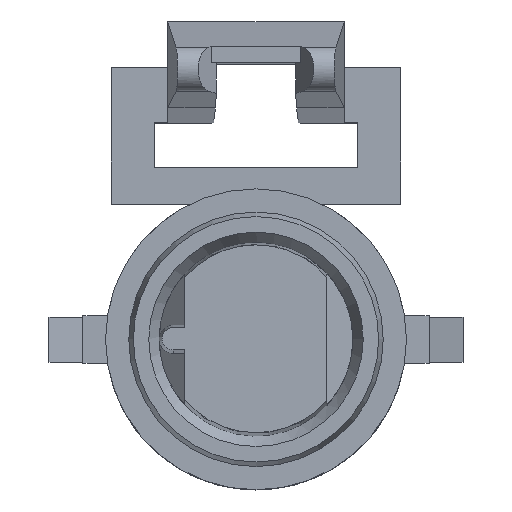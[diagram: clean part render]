
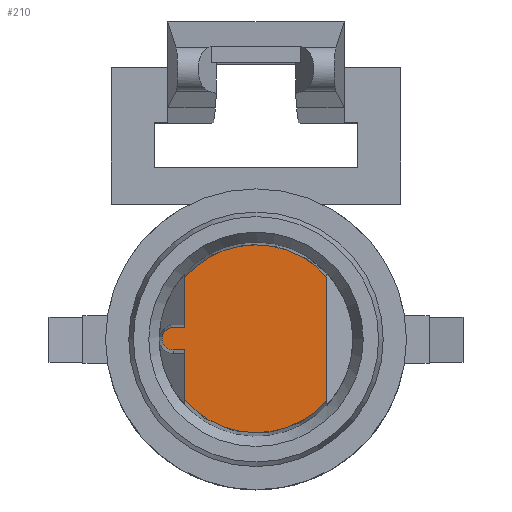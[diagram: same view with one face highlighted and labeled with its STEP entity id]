
A CAD part, top view. The second image highlights one B-rep face of the part: STEP entity #210.
In plain terms, the highlighted planar face has unit normal (0, 0, 1).
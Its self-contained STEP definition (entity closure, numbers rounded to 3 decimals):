
#100=CIRCLE('',#1733,0.496);
#101=CIRCLE('',#1741,4.15);
#102=CIRCLE('',#1742,4.15);
#210=ADVANCED_FACE('',(#356),#282,.T.);
#282=PLANE('',#1743);
#356=FACE_OUTER_BOUND('',#454,.T.);
#454=EDGE_LOOP('',(#876,#877,#878,#879,#880,#881,#882,#883));
#876=ORIENTED_EDGE('',*,*,#1254,.T.);
#877=ORIENTED_EDGE('',*,*,#1258,.T.);
#878=ORIENTED_EDGE('',*,*,#1260,.F.);
#879=ORIENTED_EDGE('',*,*,#1265,.F.);
#880=ORIENTED_EDGE('',*,*,#1271,.F.);
#881=ORIENTED_EDGE('',*,*,#1270,.F.);
#882=ORIENTED_EDGE('',*,*,#1272,.F.);
#883=ORIENTED_EDGE('',*,*,#1273,.T.);
#1040=VERTEX_POINT('',#2609);
#1041=VERTEX_POINT('',#2611);
#1044=VERTEX_POINT('',#2618);
#1045=VERTEX_POINT('',#2623);
#1048=VERTEX_POINT('',#2637);
#1051=VERTEX_POINT('',#2652);
#1052=VERTEX_POINT('',#2660);
#1053=VERTEX_POINT('',#2665);
#1254=EDGE_CURVE('',#1041,#1040,#1437,.T.);
#1258=EDGE_CURVE('',#1040,#1044,#100,.T.);
#1260=EDGE_CURVE('',#1045,#1044,#1440,.T.);
#1265=EDGE_CURVE('',#1048,#1045,#1444,.T.);
#1270=EDGE_CURVE('',#1052,#1051,#1446,.T.);
#1271=EDGE_CURVE('',#1051,#1048,#101,.T.);
#1272=EDGE_CURVE('',#1053,#1052,#102,.T.);
#1273=EDGE_CURVE('',#1053,#1041,#1447,.T.);
#1437=LINE('',#2610,#1608);
#1440=LINE('',#2622,#1611);
#1444=LINE('',#2638,#1615);
#1446=LINE('',#2661,#1617);
#1447=LINE('',#2666,#1618);
#1608=VECTOR('',#2131,1.);
#1611=VECTOR('',#2144,1.);
#1615=VECTOR('',#2150,1.);
#1617=VECTOR('',#2158,1.);
#1618=VECTOR('',#2165,1.);
#1733=AXIS2_PLACEMENT_3D('',#2619,#2138,#2139);
#1741=AXIS2_PLACEMENT_3D('',#2663,#2161,#2162);
#1742=AXIS2_PLACEMENT_3D('',#2664,#2163,#2164);
#1743=AXIS2_PLACEMENT_3D('',#2667,#2166,#2167);
#2131=DIRECTION('',(-1.,0.,0.));
#2138=DIRECTION('',(0.,0.,1.));
#2139=DIRECTION('',(0.,-1.,0.));
#2144=DIRECTION('',(-1.,0.,0.));
#2150=DIRECTION('',(0.,1.,0.));
#2158=DIRECTION('',(0.,-1.,0.));
#2161=DIRECTION('',(0.,0.,-1.));
#2162=DIRECTION('',(0.,-1.,0.));
#2163=DIRECTION('',(0.,0.,-1.));
#2164=DIRECTION('',(0.,-1.,0.));
#2165=DIRECTION('',(0.,-1.,0.));
#2166=DIRECTION('',(0.,0.,1.));
#2167=DIRECTION('',(0.,1.,0.));
#2609=CARTESIAN_POINT('',(-3.654,0.496,14.649));
#2610=CARTESIAN_POINT('',(-3.354,0.496,14.649));
#2611=CARTESIAN_POINT('',(-3.15,0.496,14.649));
#2618=CARTESIAN_POINT('',(-3.654,-0.496,14.649));
#2619=CARTESIAN_POINT('',(-3.654,0.,14.649));
#2622=CARTESIAN_POINT('',(-3.354,-0.496,14.649));
#2623=CARTESIAN_POINT('',(-3.15,-0.496,14.649));
#2637=CARTESIAN_POINT('',(-3.15,-2.702,14.649));
#2638=CARTESIAN_POINT('',(-3.15,3.5,14.649));
#2652=CARTESIAN_POINT('',(3.132,-2.723,14.649));
#2660=CARTESIAN_POINT('',(3.131,2.724,14.649));
#2661=CARTESIAN_POINT('',(3.131,0.,14.649));
#2663=CARTESIAN_POINT('',(0.,0.,14.649));
#2664=CARTESIAN_POINT('',(0.,0.,14.649));
#2665=CARTESIAN_POINT('',(-3.15,2.702,14.649));
#2666=CARTESIAN_POINT('',(-3.15,3.5,14.649));
#2667=CARTESIAN_POINT('',(-3.65,0.,14.649));
